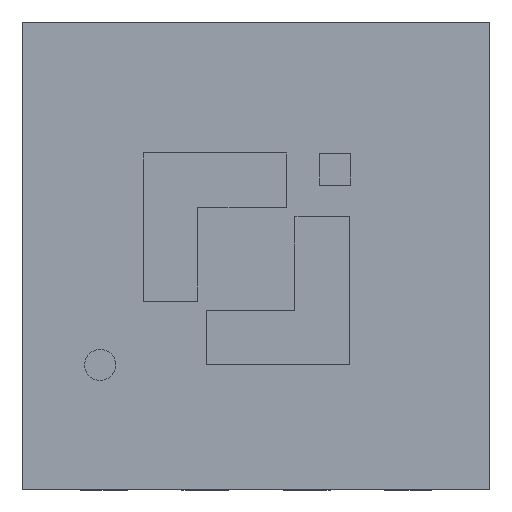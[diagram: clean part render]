
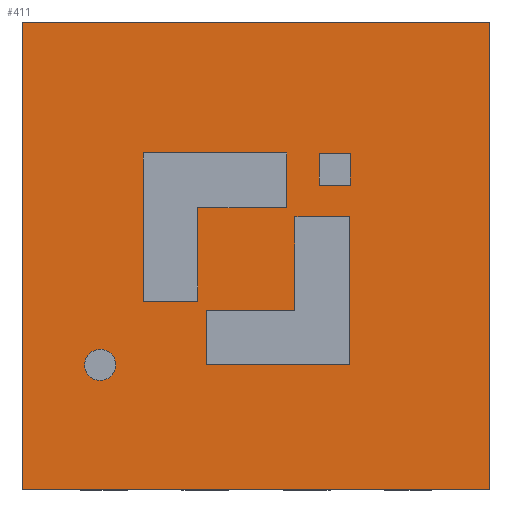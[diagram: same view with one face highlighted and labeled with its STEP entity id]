
A CAD part, top view. The second image highlights one B-rep face of the part: STEP entity #411.
In plain terms, the highlighted planar face has unit normal (0, 0, 1).
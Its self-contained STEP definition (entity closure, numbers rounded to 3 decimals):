
#218=CARTESIAN_POINT('',(0.,0.,0.75));
#219=DIRECTION('',(0.,0.,1.));
#220=DIRECTION('',(1.,0.,0.));
#221=AXIS2_PLACEMENT_3D('',#218,#219,#220);
#222=PLANE('',#221);
#223=CARTESIAN_POINT('',(-0.969,-0.605,0.75));
#224=VERTEX_POINT('',#223);
#225=CARTESIAN_POINT('',(-0.9,-0.7,0.75));
#226=VERTEX_POINT('',#225);
#227=CARTESIAN_POINT('',(-1.,-0.7,0.75));
#228=DIRECTION('',(0.,0.,1.));
#229=DIRECTION('',(1.,0.,-0.));
#230=AXIS2_PLACEMENT_3D('',#227,#228,#229);
#231=CIRCLE('',#230,0.1);
#232=EDGE_CURVE('',#224,#226,#231,.T.);
#233=ORIENTED_EDGE('',*,*,#232,.F.);
#234=CARTESIAN_POINT('',(-1.,-0.7,0.75));
#235=DIRECTION('',(0.,0.,1.));
#236=DIRECTION('',(1.,0.,-0.));
#237=AXIS2_PLACEMENT_3D('',#234,#235,#236);
#238=CIRCLE('',#237,0.1);
#239=EDGE_CURVE('',#226,#224,#238,.T.);
#240=ORIENTED_EDGE('',*,*,#239,.F.);
#241=EDGE_LOOP('',(#233,#240));
#242=FACE_BOUND('',#241,.T.);
#243=CARTESIAN_POINT('',(1.5,1.5,0.75));
#244=VERTEX_POINT('',#243);
#245=CARTESIAN_POINT('',(1.5,-1.5,0.75));
#246=VERTEX_POINT('',#245);
#247=CARTESIAN_POINT('',(1.5,1.5,0.75));
#248=DIRECTION('',(0.,-1.,0.));
#249=VECTOR('',#248,3.);
#250=LINE('',#247,#249);
#251=EDGE_CURVE('',#244,#246,#250,.T.);
#252=ORIENTED_EDGE('',*,*,#251,.F.);
#253=CARTESIAN_POINT('',(-1.5,1.5,0.75));
#254=VERTEX_POINT('',#253);
#255=CARTESIAN_POINT('',(-1.5,1.5,0.75));
#256=DIRECTION('',(1.,0.,0.));
#257=VECTOR('',#256,3.);
#258=LINE('',#255,#257);
#259=EDGE_CURVE('',#254,#244,#258,.T.);
#260=ORIENTED_EDGE('',*,*,#259,.F.);
#261=CARTESIAN_POINT('',(-1.5,-1.5,0.75));
#262=VERTEX_POINT('',#261);
#263=CARTESIAN_POINT('',(-1.5,-1.5,0.75));
#264=DIRECTION('',(0.,1.,0.));
#265=VECTOR('',#264,3.);
#266=LINE('',#263,#265);
#267=EDGE_CURVE('',#262,#254,#266,.T.);
#268=ORIENTED_EDGE('',*,*,#267,.F.);
#269=CARTESIAN_POINT('',(1.5,-1.5,0.75));
#270=DIRECTION('',(-1.,-0.,0.));
#271=VECTOR('',#270,3.);
#272=LINE('',#269,#271);
#273=EDGE_CURVE('',#246,#262,#272,.T.);
#274=ORIENTED_EDGE('',*,*,#273,.F.);
#275=EDGE_LOOP('',(#252,#260,#268,#274));
#276=FACE_BOUND('',#275,.T.);
#277=CARTESIAN_POINT('',(-0.724,0.66,0.75));
#278=VERTEX_POINT('',#277);
#279=CARTESIAN_POINT('',(0.196,0.66,0.75));
#280=VERTEX_POINT('',#279);
#281=CARTESIAN_POINT('',(-0.724,0.66,0.75));
#282=DIRECTION('',(1.,0.,0.));
#283=VECTOR('',#282,0.92);
#284=LINE('',#281,#283);
#285=EDGE_CURVE('',#278,#280,#284,.T.);
#286=ORIENTED_EDGE('',*,*,#285,.T.);
#287=CARTESIAN_POINT('',(0.196,0.31,0.75));
#288=VERTEX_POINT('',#287);
#289=CARTESIAN_POINT('',(0.196,0.66,0.75));
#290=DIRECTION('',(0.,-1.,0.));
#291=VECTOR('',#290,0.35);
#292=LINE('',#289,#291);
#293=EDGE_CURVE('',#280,#288,#292,.T.);
#294=ORIENTED_EDGE('',*,*,#293,.T.);
#295=CARTESIAN_POINT('',(-0.374,0.31,0.75));
#296=VERTEX_POINT('',#295);
#297=CARTESIAN_POINT('',(0.196,0.31,0.75));
#298=DIRECTION('',(-1.,-0.,0.));
#299=VECTOR('',#298,0.57);
#300=LINE('',#297,#299);
#301=EDGE_CURVE('',#288,#296,#300,.T.);
#302=ORIENTED_EDGE('',*,*,#301,.T.);
#303=CARTESIAN_POINT('',(-0.374,-0.29,0.75));
#304=VERTEX_POINT('',#303);
#305=CARTESIAN_POINT('',(-0.374,0.31,0.75));
#306=DIRECTION('',(0.,-1.,0.));
#307=VECTOR('',#306,0.6);
#308=LINE('',#305,#307);
#309=EDGE_CURVE('',#296,#304,#308,.T.);
#310=ORIENTED_EDGE('',*,*,#309,.T.);
#311=CARTESIAN_POINT('',(-0.724,-0.29,0.75));
#312=VERTEX_POINT('',#311);
#313=CARTESIAN_POINT('',(-0.374,-0.29,0.75));
#314=DIRECTION('',(-1.,-0.,0.));
#315=VECTOR('',#314,0.35);
#316=LINE('',#313,#315);
#317=EDGE_CURVE('',#304,#312,#316,.T.);
#318=ORIENTED_EDGE('',*,*,#317,.T.);
#319=CARTESIAN_POINT('',(-0.724,-0.29,0.75));
#320=DIRECTION('',(0.,1.,0.));
#321=VECTOR('',#320,0.95);
#322=LINE('',#319,#321);
#323=EDGE_CURVE('',#312,#278,#322,.T.);
#324=ORIENTED_EDGE('',*,*,#323,.T.);
#325=EDGE_LOOP('',(#286,#294,#302,#310,#318,#324));
#326=FACE_BOUND('',#325,.T.);
#327=CARTESIAN_POINT('',(0.405,0.654,0.75));
#328=VERTEX_POINT('',#327);
#329=CARTESIAN_POINT('',(0.605,0.654,0.75));
#330=VERTEX_POINT('',#329);
#331=CARTESIAN_POINT('',(0.405,0.654,0.75));
#332=DIRECTION('',(1.,0.,0.));
#333=VECTOR('',#332,0.2);
#334=LINE('',#331,#333);
#335=EDGE_CURVE('',#328,#330,#334,.T.);
#336=ORIENTED_EDGE('',*,*,#335,.T.);
#337=CARTESIAN_POINT('',(0.605,0.454,0.75));
#338=VERTEX_POINT('',#337);
#339=CARTESIAN_POINT('',(0.605,0.654,0.75));
#340=DIRECTION('',(0.,-1.,0.));
#341=VECTOR('',#340,0.2);
#342=LINE('',#339,#341);
#343=EDGE_CURVE('',#330,#338,#342,.T.);
#344=ORIENTED_EDGE('',*,*,#343,.T.);
#345=CARTESIAN_POINT('',(0.405,0.454,0.75));
#346=VERTEX_POINT('',#345);
#347=CARTESIAN_POINT('',(0.605,0.454,0.75));
#348=DIRECTION('',(-1.,0.,0.));
#349=VECTOR('',#348,0.2);
#350=LINE('',#347,#349);
#351=EDGE_CURVE('',#338,#346,#350,.T.);
#352=ORIENTED_EDGE('',*,*,#351,.T.);
#353=CARTESIAN_POINT('',(0.405,0.454,0.75));
#354=DIRECTION('',(-0.,1.,0.));
#355=VECTOR('',#354,0.2);
#356=LINE('',#353,#355);
#357=EDGE_CURVE('',#346,#328,#356,.T.);
#358=ORIENTED_EDGE('',*,*,#357,.T.);
#359=EDGE_LOOP('',(#336,#344,#352,#358));
#360=FACE_BOUND('',#359,.T.);
#361=CARTESIAN_POINT('',(0.25,0.25,0.75));
#362=VERTEX_POINT('',#361);
#363=CARTESIAN_POINT('',(0.6,0.25,0.75));
#364=VERTEX_POINT('',#363);
#365=CARTESIAN_POINT('',(0.25,0.25,0.75));
#366=DIRECTION('',(1.,0.,-0.));
#367=VECTOR('',#366,0.35);
#368=LINE('',#365,#367);
#369=EDGE_CURVE('',#362,#364,#368,.T.);
#370=ORIENTED_EDGE('',*,*,#369,.T.);
#371=CARTESIAN_POINT('',(0.6,-0.7,0.75));
#372=VERTEX_POINT('',#371);
#373=CARTESIAN_POINT('',(0.6,0.25,0.75));
#374=DIRECTION('',(0.,-1.,0.));
#375=VECTOR('',#374,0.95);
#376=LINE('',#373,#375);
#377=EDGE_CURVE('',#364,#372,#376,.T.);
#378=ORIENTED_EDGE('',*,*,#377,.T.);
#379=CARTESIAN_POINT('',(-0.32,-0.7,0.75));
#380=VERTEX_POINT('',#379);
#381=CARTESIAN_POINT('',(0.6,-0.7,0.75));
#382=DIRECTION('',(-1.,0.,0.));
#383=VECTOR('',#382,0.92);
#384=LINE('',#381,#383);
#385=EDGE_CURVE('',#372,#380,#384,.T.);
#386=ORIENTED_EDGE('',*,*,#385,.T.);
#387=CARTESIAN_POINT('',(-0.32,-0.35,0.75));
#388=VERTEX_POINT('',#387);
#389=CARTESIAN_POINT('',(-0.32,-0.7,0.75));
#390=DIRECTION('',(0.,1.,0.));
#391=VECTOR('',#390,0.35);
#392=LINE('',#389,#391);
#393=EDGE_CURVE('',#380,#388,#392,.T.);
#394=ORIENTED_EDGE('',*,*,#393,.T.);
#395=CARTESIAN_POINT('',(0.25,-0.35,0.75));
#396=VERTEX_POINT('',#395);
#397=CARTESIAN_POINT('',(-0.32,-0.35,0.75));
#398=DIRECTION('',(1.,0.,-0.));
#399=VECTOR('',#398,0.57);
#400=LINE('',#397,#399);
#401=EDGE_CURVE('',#388,#396,#400,.T.);
#402=ORIENTED_EDGE('',*,*,#401,.T.);
#403=CARTESIAN_POINT('',(0.25,-0.35,0.75));
#404=DIRECTION('',(0.,1.,0.));
#405=VECTOR('',#404,0.6);
#406=LINE('',#403,#405);
#407=EDGE_CURVE('',#396,#362,#406,.T.);
#408=ORIENTED_EDGE('',*,*,#407,.T.);
#409=EDGE_LOOP('',(#370,#378,#386,#394,#402,#408));
#410=FACE_BOUND('',#409,.T.);
#411=ADVANCED_FACE('',(#242,#276,#326,#360,#410),#222,.T.);
